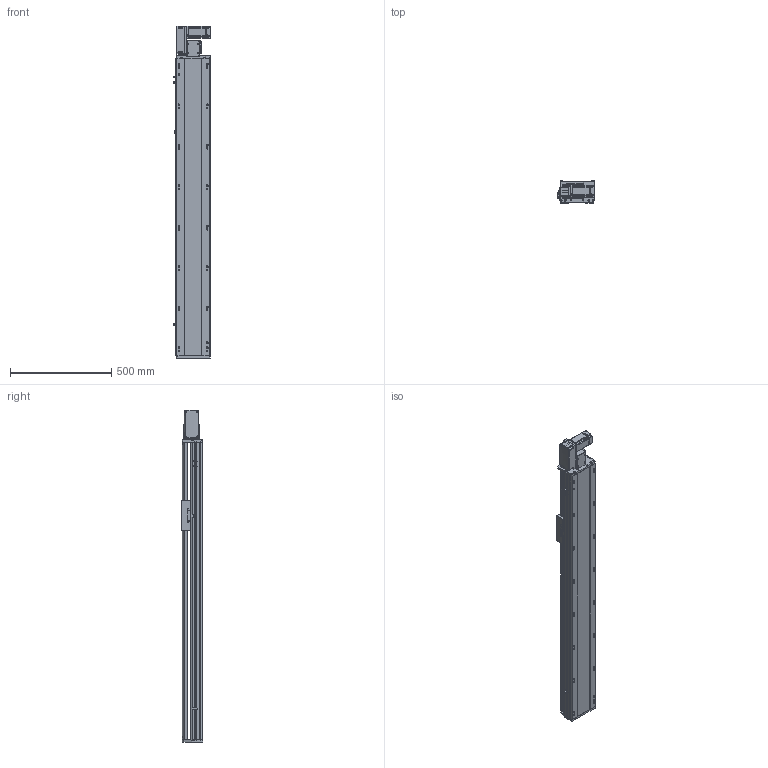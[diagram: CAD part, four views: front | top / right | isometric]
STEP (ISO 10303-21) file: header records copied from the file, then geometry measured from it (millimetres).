
FILE_DESCRIPTION (( 'STEP AP214' ), '1' );
FILE_NAME ('RTB17S-XX-1200-L-M40-C4.STEP', '2025-12-11T05:38:10', ( '' ), ( '' ), 'SwSTEP 2.0', 'SolidWorks 2018', '' );
FILE_SCHEMA (( 'AUTOMOTIVE_DESIGN' ));
Length unit declared in the file: millimetre
Products named in the file (14): RTB14-L-005P--轴承塑胶压盖^RTB17S-L-皮带座装配-400W_RTB17S-XX-XX-L-M40-C4（方程式）; RTB17S-XX-1200-L-M40-C4; RTB14-L-018P^RTB17S-L-皮带座装配-400W_RTB17S-XX-XX-L-M40-C4（方程式）; 400W伺服电机^RTB17S-XX-XX-L-M40-C4（方程式）; OMRON EE-SX672 传感器^RTB17S-XX-XX-L-M40-C4（方程式）; RTB17S-L-001侧面板^RTB17S-XX-XX-L-M40-C4（方程式）; RTB17-R-011底座^RTB17S-XX-XX-L-M40-C4（方程式）; RTB17S-L-皮带座装配-400W^RTB17S-XX-XX-L-M40-C4（方程式）; RTB14-L-017P^RTB17S-L-皮带座装配-400W_RTB17S-XX-XX-L-M40-C4（方程式）; RMP17S-L-014-T20--皮带座^RTB17S-L-皮带座装配-400W_RTB17S-XX-XX-L-M40-C4（方程式）; RTB14-L-008-M20--电机板^RTB17S-L-皮带座装配-400W_RTB17S-XX-XX-L-M40-C4（方程式）; RTB17S-L-007上盖^RTB17S-XX-XX-L-M40-C4（方程式）; RTH13-BL-012感应片外置^RTB17S-XX-XX-L-M40-C4（方程式）; RTB17S-L-004丝杆螺母连接座^RTB17S-XX-XX-L-M40-C4（方程式）
Assembly tree (16 placements, depth 3):
  RTB17S-XX-1200-L-M40-C4
    RTB17-R-011底座^RTB17S-XX-XX-L-M40-C4（方程式）
    RTB17S-L-007上盖^RTB17S-XX-XX-L-M40-C4（方程式）
    OMRON EE-SX672 传感器^RTB17S-XX-XX-L-M40-C4（方程式）  x3
    RTB17S-L-001侧面板^RTB17S-XX-XX-L-M40-C4（方程式）
    400W伺服电机^RTB17S-XX-XX-L-M40-C4（方程式）
    RTB17S-L-004丝杆螺母连接座^RTB17S-XX-XX-L-M40-C4（方程式）
    RTH13-BL-012感应片外置^RTB17S-XX-XX-L-M40-C4（方程式）
    RTB17S-L-皮带座装配-400W^RTB17S-XX-XX-L-M40-C4（方程式）
      RMP17S-L-014-T20--皮带座^RTB17S-L-皮带座装配-400W_RTB17S-XX-XX-L-M40-C4（方程式）
      RTB14-L-005P--轴承塑胶压盖^RTB17S-L-皮带座装配-400W_RTB17S-XX-XX-L-M40-C4（方程式）
      RTB14-L-008-M20--电机板^RTB17S-L-皮带座装配-400W_RTB17S-XX-XX-L-M40-C4（方程式）
      RTB14-L-017P^RTB17S-L-皮带座装配-400W_RTB17S-XX-XX-L-M40-C4（方程式）  x2
      RTB14-L-018P^RTB17S-L-皮带座装配-400W_RTB17S-XX-XX-L-M40-C4（方程式）
Bounding box: 186 x 108 x 1641 mm (x, y, z)
Volume: 14007968.5 mm3; surface area: 1675023.8 mm2
Topology: 15 solids, 15 shells, 2221 faces, 6141 edges, 4005 vertices
Faces by surface type: plane 1070, cylinder 703, bspline 301, cone 139, torus 8
Entity records: 63401 total; most frequent: CARTESIAN_POINT 17746, ORIENTED_EDGE 9126, DIRECTION 8486, EDGE_CURVE 4563, VERTEX_POINT 2993, AXIS2_PLACEMENT_3D 2923, LINE 2640, VECTOR 2640
